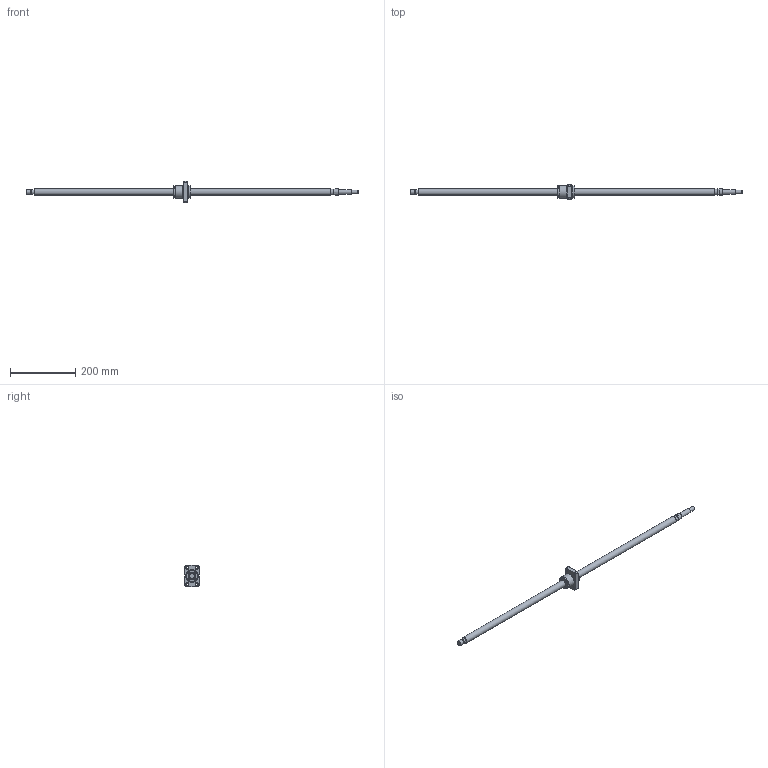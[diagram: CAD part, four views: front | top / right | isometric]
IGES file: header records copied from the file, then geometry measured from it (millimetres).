
Start section: Data from Parasolid IGES Translator 26.0.171, Copyright(c) 2006 Siemens PLM Software. All Rights Reserved.
Global section: file name: BNK2020-3.6G0+1020LC5Y(4810).igs; native system: By Siemens PLM Incorporated; preprocessor: XPlus GENERIC/IGES 26.0.171; author: Noname; organization: Noname; date: 20240709.094032; units: millimetre
Bounding box: 1020 x 46 x 66 mm (x, y, z)
Surface area: 80781 mm2 (no closed solid volume)
Topology: 0 solids, 0 shells, 139 faces, 649 edges, 587 vertices
Faces by surface type: extrusion 75, revolution 64
